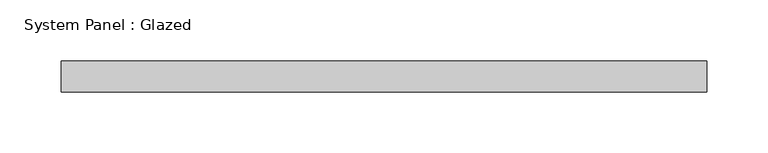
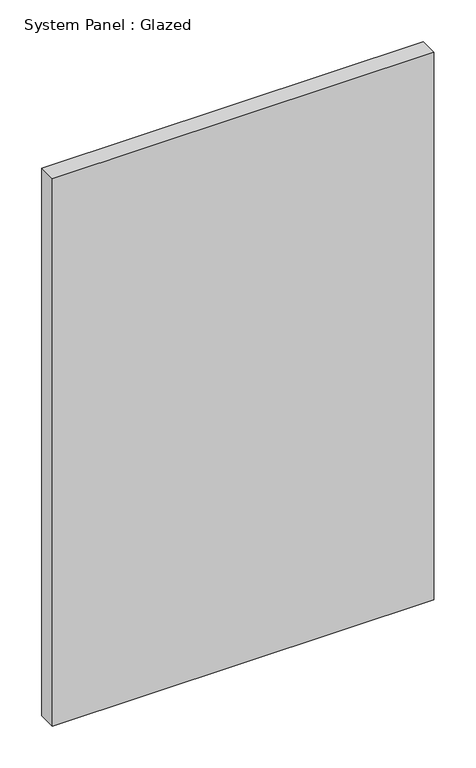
"""IFC4 building model written with IfcOpenShell, lengths in millimetres: plate geometry, System Panel : Glazed."""

from ifc_helpers import new_model, si_unit, origin, origin_with_axes, place, context, project, spatial, polyline, outline, extrude, source, transform, mapped, element, save


def system_panel_glazed_d9492c6f(model_context):
    return source(origin(), model_context, "Body", "SweptSolid", [
        extrude(outline(polyline([(264.4802485, -44.45), (-264.4802485, -44.45), (-264.4802485, -19.05), (264.4802485, -19.05), (264.4802485, -44.45)])), origin_with_axes(), (0.0, 0.0, 1.0), 802.4190025),
    ])


if __name__ == "__main__":
    model = new_model("IFC4")
    model_context = context("Model", 3, world=origin())
    ifc_project = project(units=[si_unit("LENGTHUNIT", "METRE", prefix="MILLI")], contexts=[model_context])
    site = spatial("IfcSite", under=ifc_project)
    building = spatial("IfcBuilding", under=site)
    placement = place(None, origin())
    system_panel_glazed_shape = system_panel_glazed_d9492c6f(model_context)
    element("IfcPlate", 1, ObjectType="System Panel : Glazed", at=placement, inside=building, context=model_context, shape_type="MappedRepresentation", body=[
        mapped(system_panel_glazed_shape, transform((0.0, 0.0, 0.0), x_axis=(1.0, 0.0, 0.0), y_axis=(0.0, 1.0, 0.0), z_axis=(0.0, 0.0, 1.0))),
    ])
    save(model, "model.ifc")
